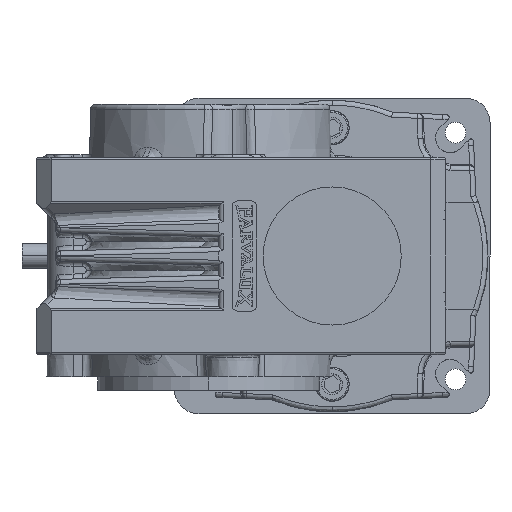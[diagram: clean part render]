
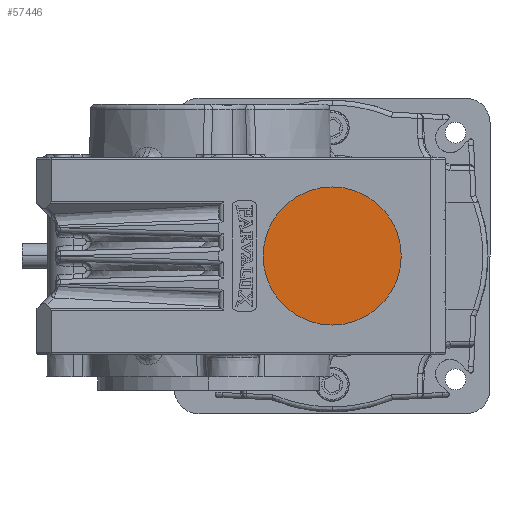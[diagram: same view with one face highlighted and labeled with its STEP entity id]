
A CAD part, left-side view. The second image highlights one B-rep face of the part: STEP entity #57446.
In plain terms, the highlighted planar face has unit normal (-1, 0, 0).
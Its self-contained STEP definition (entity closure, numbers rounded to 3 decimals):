
#5660 = PLANE ( 'NONE',  #184317 ) ;
#13304 = DIRECTION ( 'NONE',  ( -1., 0., 0. ) ) ;
#17522 = CARTESIAN_POINT ( 'NONE',  ( -152.84, 32., -32. ) ) ;
#41364 = VERTEX_POINT ( 'NONE', #198989 ) ;
#46948 = DIRECTION ( 'NONE',  ( 0., 0., -1. ) ) ;
#50948 = EDGE_CURVE ( 'NONE', #41364, #134783, #198820, .T. ) ;
#52163 = CIRCLE ( 'NONE', #178681, 14. ) ;
#55712 = DIRECTION ( 'NONE',  ( -1., 0., 0. ) ) ;
#57446 = ADVANCED_FACE ( 'NONE', ( #146525 ), #5660, .T. ) ;
#89675 = DIRECTION ( 'NONE',  ( 0., 0., -1. ) ) ;
#108186 = CARTESIAN_POINT ( 'NONE',  ( -152.84, 32., -32. ) ) ;
#118410 = EDGE_CURVE ( 'NONE', #134783, #41364, #52163, .T. ) ;
#124609 = DIRECTION ( 'NONE',  ( -1., 0., 0. ) ) ;
#126795 = DIRECTION ( 'NONE',  ( 0., 0., -1. ) ) ;
#134360 = CARTESIAN_POINT ( 'NONE',  ( -152.84, 32., -46. ) ) ;
#134783 = VERTEX_POINT ( 'NONE', #134360 ) ;
#137481 = ORIENTED_EDGE ( 'NONE', *, *, #118410, .T. ) ;
#138888 = CARTESIAN_POINT ( 'NONE',  ( -152.84, 32., -32. ) ) ;
#146525 = FACE_OUTER_BOUND ( 'NONE', #211026, .T. ) ;
#148408 = ORIENTED_EDGE ( 'NONE', *, *, #50948, .T. ) ;
#178681 = AXIS2_PLACEMENT_3D ( 'NONE', #138888, #13304, #46948 ) ;
#184317 = AXIS2_PLACEMENT_3D ( 'NONE', #108186, #55712, #126795 ) ;
#198820 = CIRCLE ( 'NONE', #221172, 14. ) ;
#198989 = CARTESIAN_POINT ( 'NONE',  ( -152.84, 32., -18. ) ) ;
#211026 = EDGE_LOOP ( 'NONE', ( #148408, #137481 ) ) ;
#221172 = AXIS2_PLACEMENT_3D ( 'NONE', #17522, #124609, #89675 ) ;
